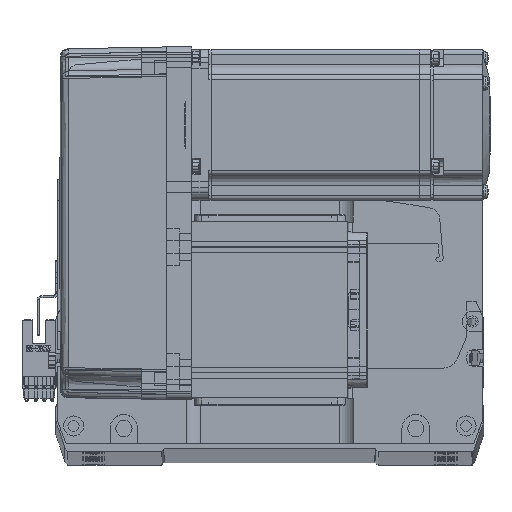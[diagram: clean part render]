
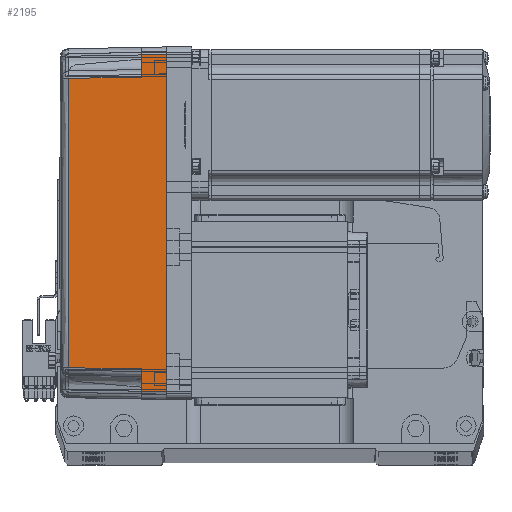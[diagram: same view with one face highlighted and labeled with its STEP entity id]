
A CAD part, top view. The second image highlights one B-rep face of the part: STEP entity #2195.
In plain terms, the highlighted planar face has unit normal (-0.018, 0, 1) as drawn and (0, 1, 0.017) by its records, which use the part's own axes.
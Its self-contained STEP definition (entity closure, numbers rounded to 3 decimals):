
#545 = LINE ( 'NONE', #63439, #27319 ) ;
#2195 = ADVANCED_FACE ( 'NONE', ( #24649 ), #68195, .T. ) ;
#3902 = CARTESIAN_POINT ( 'NONE',  ( -19.165, 35.316, 39.181 ) ) ;
#4336 = CARTESIAN_POINT ( 'NONE',  ( 67.001, 36.001, -0.052 ) ) ;
#4647 = LINE ( 'NONE', #59060, #61688 ) ;
#4695 = VERTEX_POINT ( 'NONE', #38729 ) ;
#5796 = EDGE_CURVE ( 'NONE', #16399, #14829, #68225, .T. ) ;
#6019 = CARTESIAN_POINT ( 'NONE',  ( -58., 35.825, 10. ) ) ;
#6318 = CARTESIAN_POINT ( 'NONE',  ( -57.495, 35.32, 38.985 ) ) ;
#9601 = EDGE_CURVE ( 'NONE', #10100, #4695, #4647, .T. ) ;
#9728 = DIRECTION ( 'NONE',  ( 0.017, -0.017, 1. ) ) ;
#10100 = VERTEX_POINT ( 'NONE', #70107 ) ;
#10247 = EDGE_CURVE ( 'NONE', #10100, #47273, #62454, .T. ) ;
#10726 = ORIENTED_EDGE ( 'NONE', *, *, #49584, .F. ) ;
#13017 = DIRECTION ( 'NONE',  ( 0., 1., 0.017 ) ) ;
#14712 = CARTESIAN_POINT ( 'NONE',  ( -57.495, 35.32, 38.985 ) ) ;
#14829 = VERTEX_POINT ( 'NONE', #67311 ) ;
#15804 = EDGE_LOOP ( 'NONE', ( #20297, #64066, #23568, #71182, #22246, #52746, #10726, #33844 ) ) ;
#16368 = CARTESIAN_POINT ( 'NONE',  ( 0., 36., 0. ) ) ;
#16399 = VERTEX_POINT ( 'NONE', #41902 ) ;
#20297 = ORIENTED_EDGE ( 'NONE', *, *, #9601, .T. ) ;
#22246 = ORIENTED_EDGE ( 'NONE', *, *, #5796, .T. ) ;
#23568 = ORIENTED_EDGE ( 'NONE', *, *, #41140, .T. ) ;
#24492 = VERTEX_POINT ( 'NONE', #49557 ) ;
#24649 = FACE_OUTER_BOUND ( 'NONE', #15804, .T. ) ;
#25823 = LINE ( 'NONE', #67777, #54457 ) ;
#25858 = VECTOR ( 'NONE', #29350, 1000. ) ;
#27319 = VECTOR ( 'NONE', #30218, 1000. ) ;
#28415 = LINE ( 'NONE', #57489, #25858 ) ;
#29350 = DIRECTION ( 'NONE',  ( 1., 0., 0. ) ) ;
#29803 = CARTESIAN_POINT ( 'NONE',  ( 57.495, 35.32, 38.985 ) ) ;
#30218 = DIRECTION ( 'NONE',  ( 0.017, -0.017, 1. ) ) ;
#30619 = VERTEX_POINT ( 'NONE', #6019 ) ;
#31320 = EDGE_CURVE ( 'NONE', #70804, #16399, #62038, .T. ) ;
#33203 = CARTESIAN_POINT ( 'NONE',  ( 19.165, 35.316, 39.181 ) ) ;
#33844 = ORIENTED_EDGE ( 'NONE', *, *, #10247, .F. ) ;
#34642 = VECTOR ( 'NONE', #60845, 1000. ) ;
#34778 = VECTOR ( 'NONE', #38718, 1000. ) ;
#36385 = AXIS2_PLACEMENT_3D ( 'NONE', #40489, #13017, #57289 ) ;
#38718 = DIRECTION ( 'NONE',  ( -0.017, -0.017, 1. ) ) ;
#38729 = CARTESIAN_POINT ( 'NONE',  ( -66.826, 35.825, 10. ) ) ;
#40489 = CARTESIAN_POINT ( 'NONE',  ( 70., 36., 0. ) ) ;
#41140 = EDGE_CURVE ( 'NONE', #30619, #70804, #545, .T. ) ;
#41902 = CARTESIAN_POINT ( 'NONE',  ( 57.495, 35.32, 38.985 ) ) ;
#45680 = VECTOR ( 'NONE', #48211, 1000. ) ;
#47273 = VERTEX_POINT ( 'NONE', #53718 ) ;
#47864 = LINE ( 'NONE', #4336, #34778 ) ;
#48211 = DIRECTION ( 'NONE',  ( 0.017, 0.017, -1. ) ) ;
#49254 = CARTESIAN_POINT ( 'NONE',  ( 57.495, 35.32, 38.985 ) ) ;
#49557 = CARTESIAN_POINT ( 'NONE',  ( 66.826, 35.825, 10. ) ) ;
#49584 = EDGE_CURVE ( 'NONE', #47273, #24492, #47864, .T. ) ;
#52746 = ORIENTED_EDGE ( 'NONE', *, *, #64141, .T. ) ;
#53718 = CARTESIAN_POINT ( 'NONE',  ( 67., 36., 0. ) ) ;
#54457 = VECTOR ( 'NONE', #61716, 1000. ) ;
#57289 = DIRECTION ( 'NONE',  ( 0., -0.017, 1. ) ) ;
#57489 = CARTESIAN_POINT ( 'NONE',  ( 70., 35.825, 10. ) ) ;
#57691 = EDGE_CURVE ( 'NONE', #4695, #30619, #28415, .T. ) ;
#59060 = CARTESIAN_POINT ( 'NONE',  ( -67., 36., 0. ) ) ;
#60845 = DIRECTION ( 'NONE',  ( 1., 0., 0. ) ) ;
#61688 = VECTOR ( 'NONE', #9728, 1000. ) ;
#61716 = DIRECTION ( 'NONE',  ( 1., 0., 0. ) ) ;
#62038 = B_SPLINE_CURVE_WITH_KNOTS ( 'NONE', 3,
 ( #14712, #3902, #33203, #49254 ),
 .UNSPECIFIED., .F., .F.,
 ( 4, 4 ),
 ( 0., 1. ),
 .UNSPECIFIED. ) ;
#62454 = LINE ( 'NONE', #16368, #34642 ) ;
#63439 = CARTESIAN_POINT ( 'NONE',  ( -58., 35.825, 10. ) ) ;
#64066 = ORIENTED_EDGE ( 'NONE', *, *, #57691, .T. ) ;
#64141 = EDGE_CURVE ( 'NONE', #14829, #24492, #25823, .T. ) ;
#67311 = CARTESIAN_POINT ( 'NONE',  ( 58., 35.825, 10. ) ) ;
#67777 = CARTESIAN_POINT ( 'NONE',  ( 70., 35.825, 10. ) ) ;
#68195 = PLANE ( 'NONE',  #36385 ) ;
#68225 = LINE ( 'NONE', #29803, #45680 ) ;
#70107 = CARTESIAN_POINT ( 'NONE',  ( -67., 36., 0. ) ) ;
#70804 = VERTEX_POINT ( 'NONE', #6318 ) ;
#71182 = ORIENTED_EDGE ( 'NONE', *, *, #31320, .T. ) ;
